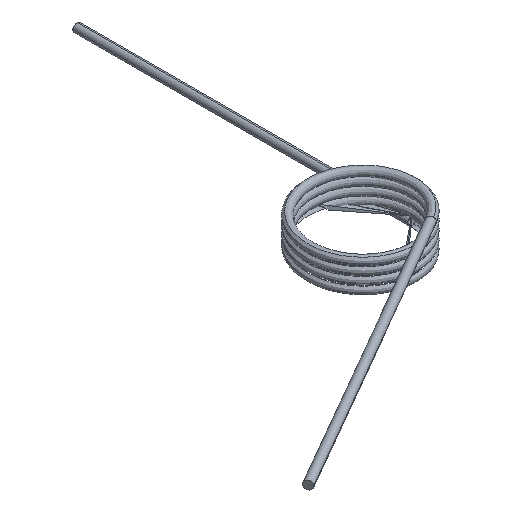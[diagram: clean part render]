
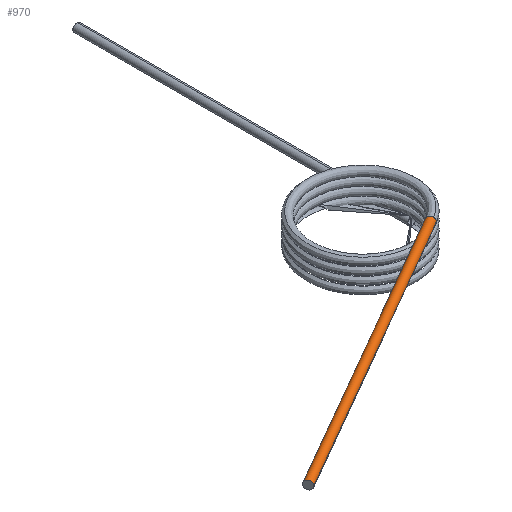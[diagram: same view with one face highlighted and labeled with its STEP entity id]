
A CAD part, isometric view. The second image highlights one B-rep face of the part: STEP entity #970.
In plain terms, the highlighted cylindrical face has radius 0.15 mm (diameter 0.3 mm), a partial arc.
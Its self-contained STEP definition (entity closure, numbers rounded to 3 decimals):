
#40 = EDGE_CURVE ( 'NONE', #1193, #67, #878, .T. ) ;
#48 = DIRECTION ( 'NONE',  ( -0.5, 0.866, 0. ) ) ;
#62 = CARTESIAN_POINT ( 'NONE',  ( 0.96, -1.659, 1.384 ) ) ;
#67 = VERTEX_POINT ( 'NONE', #1387 ) ;
#144 = CARTESIAN_POINT ( 'NONE',  ( 0.85, -1.472, 1.25 ) ) ;
#170 = DIRECTION ( 'NONE',  ( 0.5, -0.866, 0. ) ) ;
#196 = LINE ( 'NONE', #1436, #1498 ) ;
#219 = ORIENTED_EDGE ( 'NONE', *, *, #504, .F. ) ;
#260 = DIRECTION ( 'NONE',  ( 0.866, 0.5, 0. ) ) ;
#270 = CARTESIAN_POINT ( 'NONE',  ( 1., -1.732, 1.25 ) ) ;
#299 = CARTESIAN_POINT ( 'NONE',  ( 1.001, -1.731, 1.301 ) ) ;
#307 = AXIS2_PLACEMENT_3D ( 'NONE', #1042, #1179, #1266 ) ;
#308 = DIRECTION ( 'NONE',  ( -0.866, -0.5, 0. ) ) ;
#392 = DIRECTION ( 'NONE',  ( -0.866, -0.5, 0. ) ) ;
#418 = CARTESIAN_POINT ( 'NONE',  ( 0.96, -1.659, 1.384 ) ) ;
#485 = EDGE_LOOP ( 'NONE', ( #219, #1440, #555, #1060, #600 ) ) ;
#494 = CARTESIAN_POINT ( 'NONE',  ( -9.542, -7.472, 1.25 ) ) ;
#504 = EDGE_CURVE ( 'NONE', #1053, #678, #1240, .T. ) ;
#527 =( BOUNDED_CURVE ( )  B_SPLINE_CURVE ( 3, ( #270, #299, #1409, #62 ),
 .UNSPECIFIED., .F., .T. ) 
 B_SPLINE_CURVE_WITH_KNOTS ( ( 4, 4 ),
 ( 0.5, 0.691 ),
 .UNSPECIFIED. ) 
 CURVE ( )  GEOMETRIC_REPRESENTATION_ITEM ( )  RATIONAL_B_SPLINE_CURVE ( ( 1., 0.745, 0.587, 0.527 ) ) 
 REPRESENTATION_ITEM ( '' )  );
#555 = ORIENTED_EDGE ( 'NONE', *, *, #40, .T. ) ;
#600 = ORIENTED_EDGE ( 'NONE', *, *, #704, .T. ) ;
#607 = CARTESIAN_POINT ( 'NONE',  ( -9.467, -7.602, 1.25 ) ) ;
#639 = CARTESIAN_POINT ( 'NONE',  ( 1., -1.732, 1.25 ) ) ;
#678 = VERTEX_POINT ( 'NONE', #418 ) ;
#704 = EDGE_CURVE ( 'NONE', #1116, #678, #527, .T. ) ;
#794 = DIRECTION ( 'NONE',  ( -0.866, -0.5, 0. ) ) ;
#829 = AXIS2_PLACEMENT_3D ( 'NONE', #607, #260, #48 ) ;
#878 = CIRCLE ( 'NONE', #829, 0.15 ) ;
#970 = ADVANCED_FACE ( 'NONE', ( #1490 ), #1283, .T. ) ;
#1008 = VECTOR ( 'NONE', #794, 1000. ) ;
#1042 = CARTESIAN_POINT ( 'NONE',  ( 0.925, -1.602, 1.25 ) ) ;
#1053 = VERTEX_POINT ( 'NONE', #144 ) ;
#1060 = ORIENTED_EDGE ( 'NONE', *, *, #1492, .F. ) ;
#1116 = VERTEX_POINT ( 'NONE', #639 ) ;
#1178 = CARTESIAN_POINT ( 'NONE',  ( 1., -1.732, 1.25 ) ) ;
#1179 = DIRECTION ( 'NONE',  ( 0.866, 0.5, 0. ) ) ;
#1193 = VERTEX_POINT ( 'NONE', #494 ) ;
#1240 = CIRCLE ( 'NONE', #307, 0.15 ) ;
#1266 = DIRECTION ( 'NONE',  ( -0.5, 0.866, 0. ) ) ;
#1273 = CARTESIAN_POINT ( 'NONE',  ( 0.925, -1.602, 1.25 ) ) ;
#1283 = CYLINDRICAL_SURFACE ( 'NONE', #1343, 0.15 ) ;
#1343 = AXIS2_PLACEMENT_3D ( 'NONE', #1273, #392, #170 ) ;
#1387 = CARTESIAN_POINT ( 'NONE',  ( -9.392, -7.732, 1.25 ) ) ;
#1409 = CARTESIAN_POINT ( 'NONE',  ( 0.99, -1.709, 1.355 ) ) ;
#1436 = CARTESIAN_POINT ( 'NONE',  ( 0.85, -1.472, 1.25 ) ) ;
#1440 = ORIENTED_EDGE ( 'NONE', *, *, #1592, .T. ) ;
#1444 = LINE ( 'NONE', #1178, #1008 ) ;
#1490 = FACE_OUTER_BOUND ( 'NONE', #485, .T. ) ;
#1492 = EDGE_CURVE ( 'NONE', #1116, #67, #1444, .T. ) ;
#1498 = VECTOR ( 'NONE', #308, 1000. ) ;
#1592 = EDGE_CURVE ( 'NONE', #1053, #1193, #196, .T. ) ;
